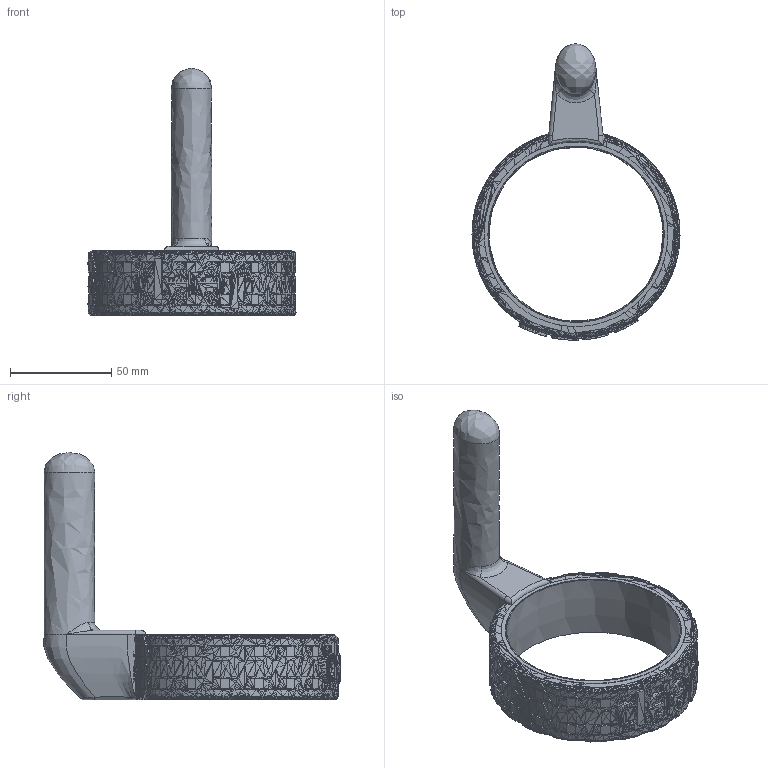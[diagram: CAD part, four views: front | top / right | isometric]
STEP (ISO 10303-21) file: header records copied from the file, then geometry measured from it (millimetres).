
FILE_DESCRIPTION(/* description */ ('Unknown'),/* implementation_level */ '2;1');
FILE_NAME(/* name */ 'JeepYeti20oz',/* time_stamp */ '2018-01-20T12:49:48-07:00',/* author */ ('Unknown'),/* organization */ ('Unknown'),/* preprocessor_version */ 'ST-DEVELOPER v16.7',/* originating_system */ 'DEX',/* authorisation */ $);
FILE_SCHEMA (('AUTOMOTIVE_DESIGN {1 0 10303 214 3 1 1}'));
Length unit declared in the file: millimetre
Products named in the file (1): JeepYeti20oz
Bounding box: 102.7 x 146.19 x 122.36 mm (x, y, z)
Volume: 130383 mm3; surface area: 34937.9 mm2
Topology: 1 solids, 1 shells, 7128 faces, 11824 edges, 4696 vertices
Faces by surface type: plane 7084, cylinder 21, bspline 21, cone 1, torus 1
Entity records: 150696 total; most frequent: DIRECTION 26003, CARTESIAN_POINT 25353, ORIENTED_EDGE 23632, EDGE_CURVE 11816, LINE 11643, VECTOR 11643, AXIS2_PLACEMENT_3D 7180, FACE_BOUND 7137
